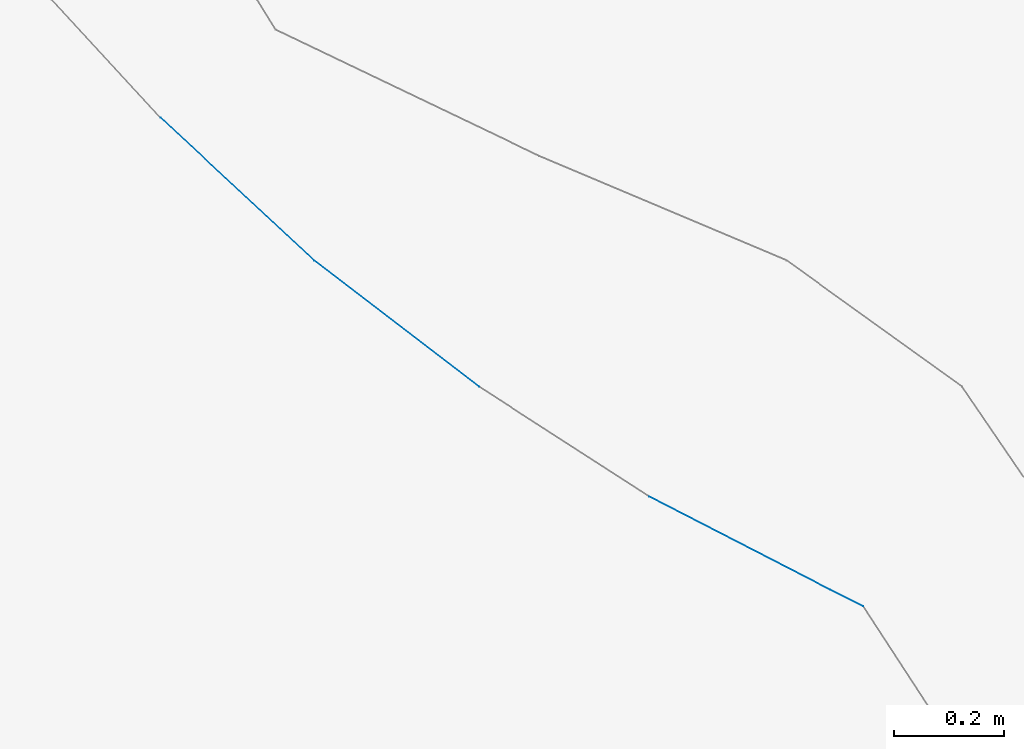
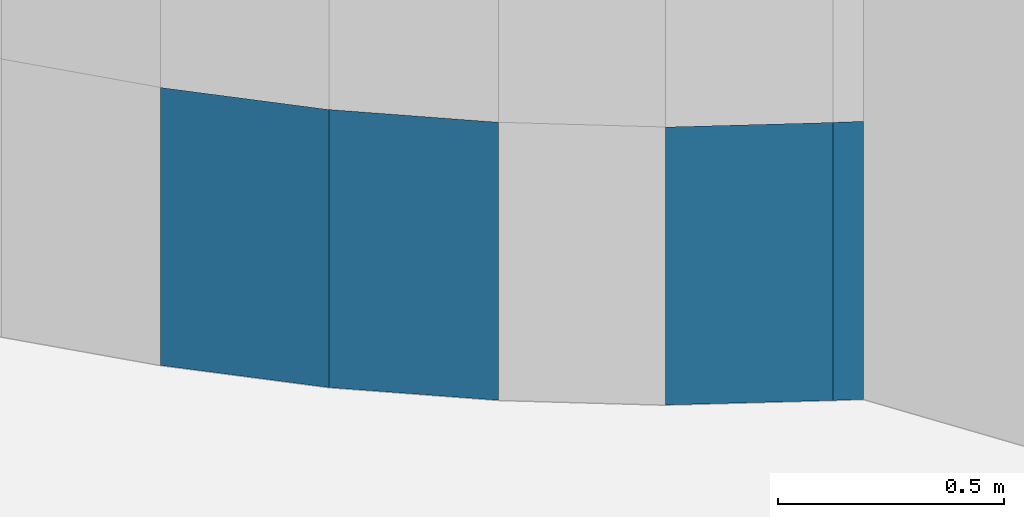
# Not in any storey, part 94 of 136: 5 walls.
"""IFC4 building model written with IfcOpenShell, lengths in metres."""

from ifc_helpers import new_model, entity, si_unit, converted_unit, frame, origin, place, context, subcontext, project, spatial, face_set, surface_model, element, save


model = new_model("IFC4")

# Units and contexts
model_context = context("Model", 3, precision=1e-05, world=origin())
body_context = subcontext(model_context, "Body", "Model", "MODEL_VIEW")
ifc_project = project(units=[converted_unit("PLANEANGLEUNIT", "DEGREE", entity("IfcRatioMeasure", 0.0174532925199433), si_unit("PLANEANGLEUNIT", "RADIAN"), dimensions=[0, 0, 0, 0, 0, 0, 0]), si_unit("AREAUNIT", "SQUARE_METRE"), si_unit("LENGTHUNIT", "METRE")], contexts=[model_context])

# Site, building
site_placement = place(None, origin())
site = spatial("IfcSite", under=ifc_project, at=site_placement, Name="_site")
building_placement = place(site_placement, origin())
building = spatial("IfcBuilding", under=site, at=building_placement, Name="_building")

# Walls
wall_1_placement = place(building_placement, origin())
element("IfcWall", 1, at=wall_1_placement, inside=building, Name="Wall", PredefinedType="NOTDEFINED", context=body_context, shape_type="SurfaceModel", body=[
    surface_model("IfcFaceBasedSurfaceModel", [(176.42, 56.58, 37.93), (176.7, 56.32, 37.93), (176.7, 56.32, 38.68), (176.42, 56.58, 38.68)], [face_set([[[0, 1, 2, 3]]])]),
])
wall_2_placement = place(building_placement, origin())
element("IfcWall", 2, at=wall_2_placement, inside=building, Name="Wall", PredefinedType="NOTDEFINED", context=body_context, shape_type="SurfaceModel", body=[
    surface_model("IfcFaceBasedSurfaceModel", [(176.7, 56.32, 37.93), (177.0, 56.09, 37.93), (177.0, 56.09, 38.68), (176.7, 56.32, 38.68)], [face_set([[[0, 1, 2, 3]]])]),
])
for number, where, name in (
    (3, (0.0, 0.0, 0.0), "Wall"),
    (4, (0.0, 0.0, 0.0), "Wall"),
):
    element("IfcWall", number, at=place(building_placement, frame(where)), inside=building, Name=name, PredefinedType="NOTDEFINED", context=body_context, shape_type="SurfaceModel", body=[
        surface_model("IfcFaceBasedSurfaceModel", [(177.64, 55.72, 37.93), (177.7, 55.69, 37.93), (177.7, 55.69, 38.68), (177.64, 55.72, 38.68)], [face_set([[[0, 1, 2, 3]]])]),
    ])
wall_3_placement = place(building_placement, origin())
element("IfcWall", 5, at=wall_3_placement, inside=building, Name="Wall", PredefinedType="NOTDEFINED", context=body_context, shape_type="SurfaceModel", body=[
    surface_model("IfcFaceBasedSurfaceModel", [(177.31, 55.89, 37.93), (177.64, 55.72, 37.93), (177.64, 55.72, 38.68), (177.31, 55.89, 38.68)], [face_set([[[0, 1, 2, 3]]])]),
])

save(model, "model.ifc")
